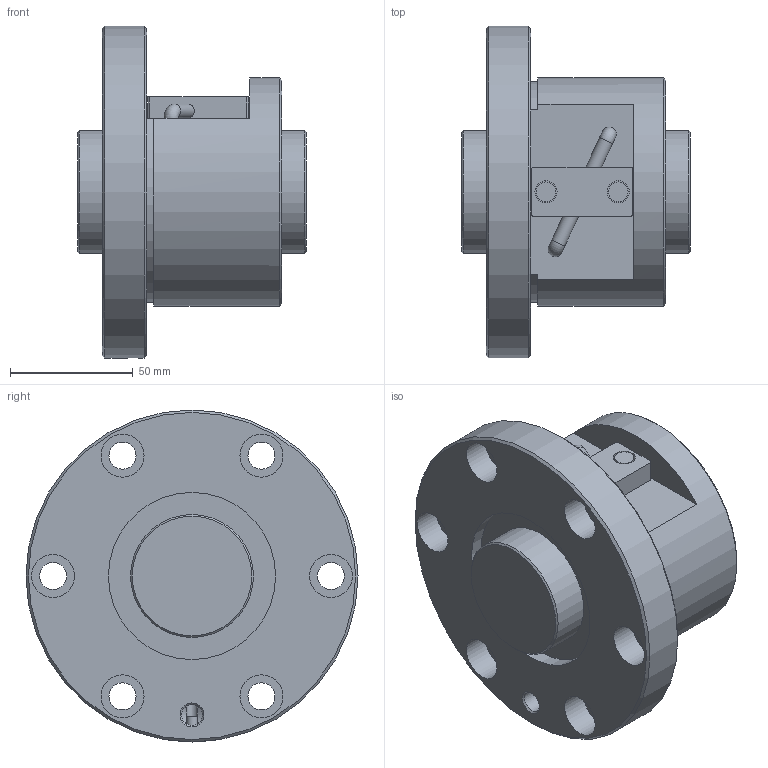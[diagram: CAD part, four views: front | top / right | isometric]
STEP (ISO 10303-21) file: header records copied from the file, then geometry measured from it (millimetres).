
FILE_DESCRIPTION(/* description */ ('STEP AP203'),/* implementation_level */ '2;1');
FILE_NAME(/* name */ 'BNF5010V-2.5RRG1+93LC0_000_rev',/* time_stamp */ '2024-08-06T09:04:52+02:00',/* author */ ('License CC BY-ND 4.0'),/* organization */ ('CADENAS'),/* preprocessor_version */ 'ST-DEVELOPER v19.3',/* originating_system */ 'PARTsolutions',/* authorisation */ ' ');
FILE_SCHEMA (('CONFIG_CONTROL_DESIGN'));
Length unit declared in the file: millimetre
Products named in the file (3): BNF5010V-2.5RRG1+93LC0_000_rev; BNF 5010-2.5RR000 Shaft; BNF 5010-2.5RR Nut
Assembly tree (2 placements, depth 2):
  BNF5010V-2.5RRG1+93LC0_000_rev
    BNF 5010-2.5RR000 Shaft
    BNF 5010-2.5RR Nut
Bounding box: 93 x 135 x 135 mm (x, y, z)
Volume: 603407.8 mm3; surface area: 86744.4 mm2
Topology: 2 solids, 2 shells, 70 faces, 152 edges, 99 vertices
Faces by surface type: cylinder 33, plane 27, cone 8, torus 2
Full cylindrical faces by diameter (mm): 4.5 x2, 5.798 x2, 8 x2, 8.566 x1, 9 x2, 11 x6, 17.5 x6, 50 x2, 68 x2, 93 x1, 135 x1
Entity records: 1809 total; most frequent: CARTESIAN_POINT 319, DIRECTION 316, ORIENTED_EDGE 210, AXIS2_PLACEMENT_3D 146, EDGE_LOOP 140, FACE_BOUND 140, EDGE_CURVE 105, VERTEX_POINT 89
